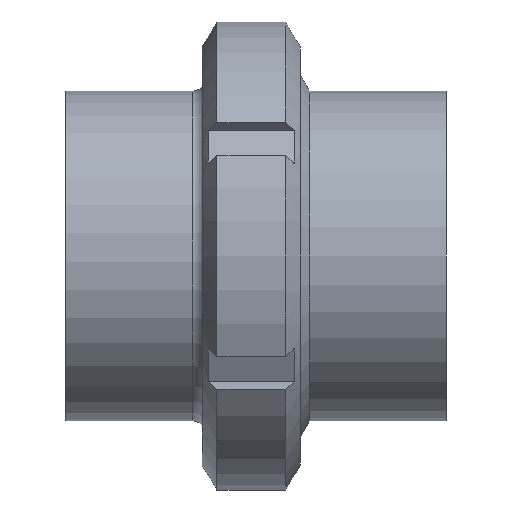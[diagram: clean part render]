
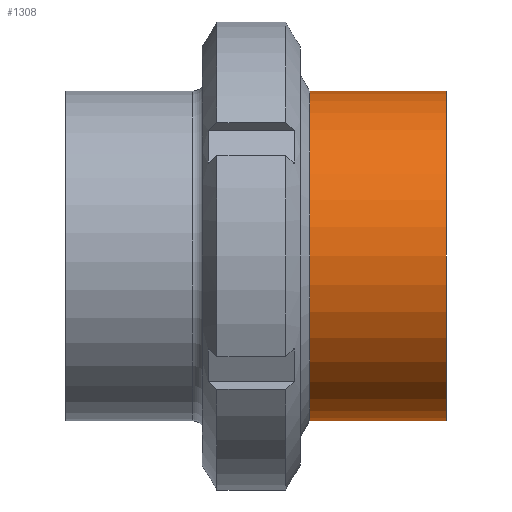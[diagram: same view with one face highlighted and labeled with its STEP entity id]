
A CAD part, left-side view. The second image highlights one B-rep face of the part: STEP entity #1308.
In plain terms, the highlighted cylindrical face has radius 52 mm (diameter 104 mm), a full revolution.
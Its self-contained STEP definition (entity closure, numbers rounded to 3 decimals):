
#79=CYLINDRICAL_SURFACE('',#1530,52.);
#98=LINE('',#2201,#142);
#142=VECTOR('',#1788,52.);
#246=FACE_OUTER_BOUND('',#317,.T.);
#317=EDGE_LOOP('',(#922,#923,#924,#925,#926,#927));
#416=CIRCLE('',#1528,52.);
#417=CIRCLE('',#1529,52.);
#418=CIRCLE('',#1531,52.);
#419=CIRCLE('',#1532,52.);
#529=VERTEX_POINT('',#2191);
#530=VERTEX_POINT('',#2192);
#531=VERTEX_POINT('',#2197);
#532=VERTEX_POINT('',#2198);
#682=EDGE_CURVE('',#529,#530,#416,.T.);
#683=EDGE_CURVE('',#530,#529,#417,.T.);
#685=EDGE_CURVE('',#531,#532,#418,.T.);
#686=EDGE_CURVE('',#532,#531,#419,.T.);
#687=EDGE_CURVE('',#532,#530,#98,.T.);
#922=ORIENTED_EDGE('',*,*,#685,.F.);
#923=ORIENTED_EDGE('',*,*,#686,.F.);
#924=ORIENTED_EDGE('',*,*,#687,.T.);
#925=ORIENTED_EDGE('',*,*,#683,.T.);
#926=ORIENTED_EDGE('',*,*,#682,.T.);
#927=ORIENTED_EDGE('',*,*,#687,.F.);
#1308=ADVANCED_FACE('',(#246),#79,.T.);
#1528=AXIS2_PLACEMENT_3D('',#2193,#1777,#1778);
#1529=AXIS2_PLACEMENT_3D('',#2194,#1779,#1780);
#1530=AXIS2_PLACEMENT_3D('',#2196,#1782,#1783);
#1531=AXIS2_PLACEMENT_3D('',#2199,#1784,#1785);
#1532=AXIS2_PLACEMENT_3D('',#2200,#1786,#1787);
#1777=DIRECTION('center_axis',(0.,-1.,0.));
#1778=DIRECTION('ref_axis',(1.,0.,0.));
#1779=DIRECTION('center_axis',(0.,-1.,0.));
#1780=DIRECTION('ref_axis',(1.,0.,0.));
#1782=DIRECTION('center_axis',(0.,-1.,0.));
#1783=DIRECTION('ref_axis',(1.,0.,0.));
#1784=DIRECTION('center_axis',(0.,-1.,0.));
#1785=DIRECTION('ref_axis',(1.,0.,0.));
#1786=DIRECTION('center_axis',(0.,-1.,0.));
#1787=DIRECTION('ref_axis',(1.,0.,0.));
#1788=DIRECTION('',(0.,1.,0.));
#2191=CARTESIAN_POINT('',(52.,43.113,0.));
#2192=CARTESIAN_POINT('',(-52.,43.113,0.));
#2193=CARTESIAN_POINT('Origin',(0.,43.113,0.));
#2194=CARTESIAN_POINT('Origin',(0.,43.113,0.));
#2196=CARTESIAN_POINT('Origin',(0.,21.557,0.));
#2197=CARTESIAN_POINT('',(52.,0.,0.));
#2198=CARTESIAN_POINT('',(-52.,0.,0.));
#2199=CARTESIAN_POINT('Origin',(0.,0.,0.));
#2200=CARTESIAN_POINT('Origin',(0.,0.,0.));
#2201=CARTESIAN_POINT('',(-52.,21.557,0.));
